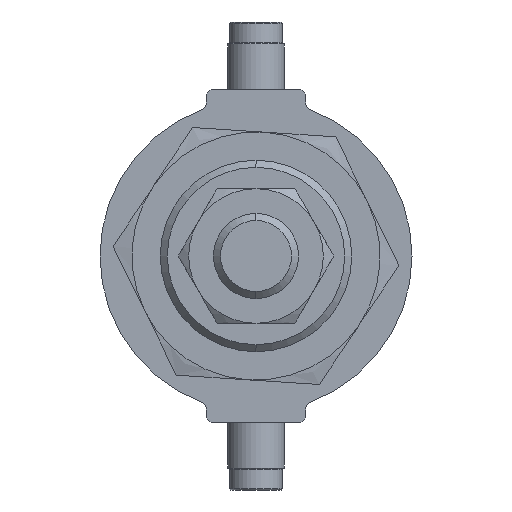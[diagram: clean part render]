
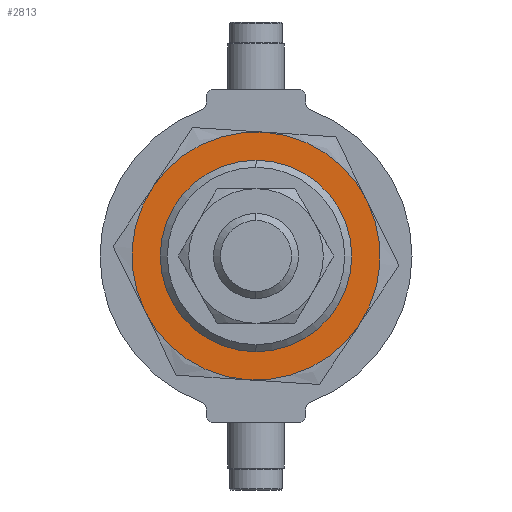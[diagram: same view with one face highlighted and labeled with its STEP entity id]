
A CAD part, left-side view. The second image highlights one B-rep face of the part: STEP entity #2813.
In plain terms, the highlighted planar face has unit normal (-1, 0, 0) as drawn and (0, 0, -1) by its records, which use the part's own axes.
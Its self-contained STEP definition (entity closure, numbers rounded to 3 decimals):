
#10 = EDGE_CURVE ( 'NONE', #3627, #54, #3819, .T. ) ;
#47 = ORIENTED_EDGE ( 'NONE', *, *, #59, .T. ) ;
#54 = VERTEX_POINT ( 'NONE', #4447 ) ;
#59 = EDGE_CURVE ( 'NONE', #1723, #4357, #4235, .T. ) ;
#101 = ORIENTED_EDGE ( 'NONE', *, *, #4349, .F. ) ;
#207 = EDGE_CURVE ( 'NONE', #54, #4166, #1624, .T. ) ;
#367 = DIRECTION ( 'NONE',  ( 1., 0., 0. ) ) ;
#442 = EDGE_CURVE ( 'NONE', #4357, #1723, #3980, .T. ) ;
#468 = DIRECTION ( 'NONE',  ( 0., 0., 1. ) ) ;
#630 = DIRECTION ( 'NONE',  ( 0., 0., 1. ) ) ;
#684 = CARTESIAN_POINT ( 'NONE',  ( 0., 0., -1.5 ) ) ;
#959 = ORIENTED_EDGE ( 'NONE', *, *, #2984, .F. ) ;
#1093 = AXIS2_PLACEMENT_3D ( 'NONE', #1515, #1293, #3738 ) ;
#1122 = CARTESIAN_POINT ( 'NONE',  ( 8.75, -15.155, -1.5 ) ) ;
#1216 = DIRECTION ( 'NONE',  ( 0., 0., 1. ) ) ;
#1263 = DIRECTION ( 'NONE',  ( 1., 0., 0. ) ) ;
#1293 = DIRECTION ( 'NONE',  ( 0., 0., 1. ) ) ;
#1373 = DIRECTION ( 'NONE',  ( 1., 0., 0. ) ) ;
#1378 = CARTESIAN_POINT ( 'NONE',  ( -8.75, 15.155, -1.5 ) ) ;
#1472 = EDGE_LOOP ( 'NONE', ( #3383, #47 ) ) ;
#1504 = AXIS2_PLACEMENT_3D ( 'NONE', #3505, #3495, #3963 ) ;
#1515 = CARTESIAN_POINT ( 'NONE',  ( 0., 0., -1.5 ) ) ;
#1624 = CIRCLE ( 'NONE', #2284, 17.5 ) ;
#1673 = PLANE ( 'NONE',  #1504 ) ;
#1723 = VERTEX_POINT ( 'NONE', #4449 ) ;
#1736 = FACE_OUTER_BOUND ( 'NONE', #2117, .T. ) ;
#1789 = DIRECTION ( 'NONE',  ( 1., 0., 0. ) ) ;
#1812 = AXIS2_PLACEMENT_3D ( 'NONE', #684, #4230, #367 ) ;
#1954 = ORIENTED_EDGE ( 'NONE', *, *, #4267, .F. ) ;
#1973 = CARTESIAN_POINT ( 'NONE',  ( 0., 0., -1.5 ) ) ;
#2030 = ORIENTED_EDGE ( 'NONE', *, *, #10, .F. ) ;
#2067 = CARTESIAN_POINT ( 'NONE',  ( -8.75, -15.155, -1.5 ) ) ;
#2117 = EDGE_LOOP ( 'NONE', ( #2934, #2030, #959, #4579, #1954, #101 ) ) ;
#2173 = CARTESIAN_POINT ( 'NONE',  ( -17.5, 0., -1.5 ) ) ;
#2284 = AXIS2_PLACEMENT_3D ( 'NONE', #4088, #1216, #3572 ) ;
#2531 = CARTESIAN_POINT ( 'NONE',  ( 0., 0., -1.5 ) ) ;
#2537 = VERTEX_POINT ( 'NONE', #2173 ) ;
#2552 = VERTEX_POINT ( 'NONE', #1378 ) ;
#2559 = CARTESIAN_POINT ( 'NONE',  ( 0., 0., -1.5 ) ) ;
#2560 = FACE_BOUND ( 'NONE', #1472, .T. ) ;
#2632 = CARTESIAN_POINT ( 'NONE',  ( 12.5, 0., -1.5 ) ) ;
#2733 = AXIS2_PLACEMENT_3D ( 'NONE', #2559, #4309, #2922 ) ;
#2775 = AXIS2_PLACEMENT_3D ( 'NONE', #3967, #3964, #1789 ) ;
#2813 = ADVANCED_FACE ( 'NONE', ( #2560, #1736 ), #1673, .F. ) ;
#2874 = AXIS2_PLACEMENT_3D ( 'NONE', #1973, #630, #1373 ) ;
#2922 = DIRECTION ( 'NONE',  ( 1., 0., 0. ) ) ;
#2934 = ORIENTED_EDGE ( 'NONE', *, *, #207, .F. ) ;
#2984 = EDGE_CURVE ( 'NONE', #4514, #3627, #3661, .T. ) ;
#3008 = DIRECTION ( 'NONE',  ( 1., 0., 0. ) ) ;
#3062 = AXIS2_PLACEMENT_3D ( 'NONE', #4024, #468, #3008 ) ;
#3233 = DIRECTION ( 'NONE',  ( 0., 0., 1. ) ) ;
#3383 = ORIENTED_EDGE ( 'NONE', *, *, #442, .T. ) ;
#3495 = DIRECTION ( 'NONE',  ( 0., 0., 1. ) ) ;
#3505 = CARTESIAN_POINT ( 'NONE',  ( 0., 0., -1.5 ) ) ;
#3515 = CIRCLE ( 'NONE', #3062, 17.5 ) ;
#3549 = AXIS2_PLACEMENT_3D ( 'NONE', #2531, #3233, #1263 ) ;
#3572 = DIRECTION ( 'NONE',  ( 1., 0., 0. ) ) ;
#3627 = VERTEX_POINT ( 'NONE', #1122 ) ;
#3661 = CIRCLE ( 'NONE', #2775, 17.5 ) ;
#3738 = DIRECTION ( 'NONE',  ( 1., 0., 0. ) ) ;
#3759 = CIRCLE ( 'NONE', #2874, 17.5 ) ;
#3819 = CIRCLE ( 'NONE', #2733, 17.5 ) ;
#3963 = DIRECTION ( 'NONE',  ( 1., 0., 0. ) ) ;
#3964 = DIRECTION ( 'NONE',  ( 0., 0., 1. ) ) ;
#3967 = CARTESIAN_POINT ( 'NONE',  ( 0., 0., -1.5 ) ) ;
#3980 = CIRCLE ( 'NONE', #1093, 12.5 ) ;
#4008 = CARTESIAN_POINT ( 'NONE',  ( 8.75, 15.155, -1.5 ) ) ;
#4024 = CARTESIAN_POINT ( 'NONE',  ( 0., 0., -1.5 ) ) ;
#4088 = CARTESIAN_POINT ( 'NONE',  ( 0., 0., -1.5 ) ) ;
#4166 = VERTEX_POINT ( 'NONE', #4008 ) ;
#4230 = DIRECTION ( 'NONE',  ( 0., 0., 1. ) ) ;
#4235 = CIRCLE ( 'NONE', #3549, 12.5 ) ;
#4267 = EDGE_CURVE ( 'NONE', #2552, #2537, #4322, .T. ) ;
#4309 = DIRECTION ( 'NONE',  ( 0., 0., 1. ) ) ;
#4322 = CIRCLE ( 'NONE', #1812, 17.5 ) ;
#4349 = EDGE_CURVE ( 'NONE', #4166, #2552, #3759, .T. ) ;
#4350 = EDGE_CURVE ( 'NONE', #2537, #4514, #3515, .T. ) ;
#4357 = VERTEX_POINT ( 'NONE', #2632 ) ;
#4447 = CARTESIAN_POINT ( 'NONE',  ( 17.5, 0., -1.5 ) ) ;
#4449 = CARTESIAN_POINT ( 'NONE',  ( -12.5, 0., -1.5 ) ) ;
#4514 = VERTEX_POINT ( 'NONE', #2067 ) ;
#4579 = ORIENTED_EDGE ( 'NONE', *, *, #4350, .F. ) ;
